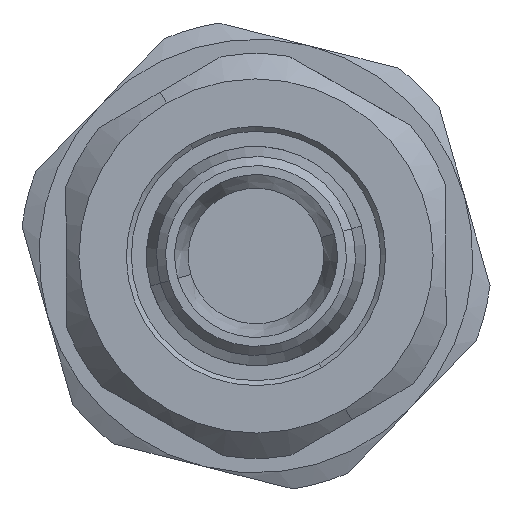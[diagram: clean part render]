
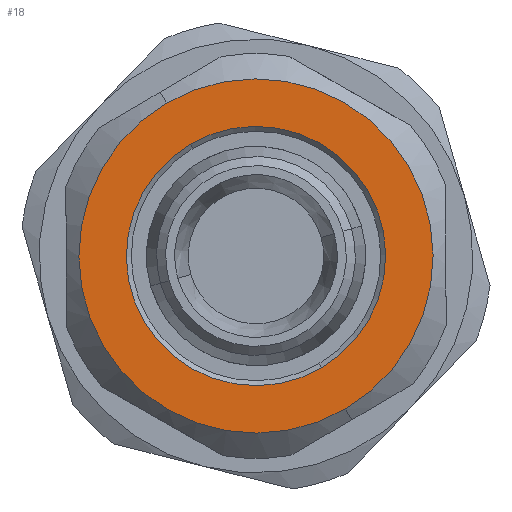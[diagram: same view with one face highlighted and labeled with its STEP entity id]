
A CAD part, left-side view. The second image highlights one B-rep face of the part: STEP entity #18.
In plain terms, the highlighted planar face has unit normal (-1, 0, 0).
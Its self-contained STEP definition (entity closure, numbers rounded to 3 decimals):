
#18 = ADVANCED_FACE ( 'NONE', ( #7130, #7175 ), #6055, .F. ) ;
#59 = EDGE_CURVE ( 'NONE', #7076, #7126, #7262, .T. ) ;
#92 = EDGE_CURVE ( 'NONE', #7184, #7085, #7312, .T. ) ;
#183 = EDGE_CURVE ( 'NONE', #7126, #7076, #7436, .T. ) ;
#204 = EDGE_CURVE ( 'NONE', #7085, #7184, #7444, .T. ) ;
#982 = AXIS2_PLACEMENT_3D ( 'NONE', #6044, #6070, #6027 ) ;
#1270 = AXIS2_PLACEMENT_3D ( 'NONE', #3485, #3477, #3465 ) ;
#1285 = AXIS2_PLACEMENT_3D ( 'NONE', #3603, #3586, #3616 ) ;
#1318 = AXIS2_PLACEMENT_3D ( 'NONE', #3869, #3839, #3848 ) ;
#1329 = AXIS2_PLACEMENT_3D ( 'NONE', #3935, #3943, #3948 ) ;
#3465 = DIRECTION ( 'NONE',  ( 0., 0., 1. ) ) ;
#3477 = DIRECTION ( 'NONE',  ( -1., 0., 0. ) ) ;
#3485 = CARTESIAN_POINT ( 'NONE',  ( 0., 0., 0. ) ) ;
#3586 = DIRECTION ( 'NONE',  ( -1., 0., 0. ) ) ;
#3603 = CARTESIAN_POINT ( 'NONE',  ( 0., 0., 0. ) ) ;
#3616 = DIRECTION ( 'NONE',  ( 0., 0., 1. ) ) ;
#3839 = DIRECTION ( 'NONE',  ( -1., 0., 0. ) ) ;
#3848 = DIRECTION ( 'NONE',  ( 0., 0., 1. ) ) ;
#3869 = CARTESIAN_POINT ( 'NONE',  ( 0., 0., 0. ) ) ;
#3935 = CARTESIAN_POINT ( 'NONE',  ( 0., 0., 0. ) ) ;
#3943 = DIRECTION ( 'NONE',  ( -1., 0., 0. ) ) ;
#3948 = DIRECTION ( 'NONE',  ( 0., 0., 1. ) ) ;
#5196 = CARTESIAN_POINT ( 'NONE',  ( 0., 0., 9.8 ) ) ;
#5219 = CARTESIAN_POINT ( 'NONE',  ( 0., 0., 7.174 ) ) ;
#5259 = CARTESIAN_POINT ( 'NONE',  ( 0., 0., -9.8 ) ) ;
#5267 = CARTESIAN_POINT ( 'NONE',  ( 0., 0., -7.174 ) ) ;
#5588 = ORIENTED_EDGE ( 'NONE', *, *, #183, .F. ) ;
#5724 = ORIENTED_EDGE ( 'NONE', *, *, #204, .T. ) ;
#5731 = ORIENTED_EDGE ( 'NONE', *, *, #92, .T. ) ;
#5976 = ORIENTED_EDGE ( 'NONE', *, *, #59, .F. ) ;
#6027 = DIRECTION ( 'NONE',  ( 0., 0., -1. ) ) ;
#6044 = CARTESIAN_POINT ( 'NONE',  ( 0., 0., 0. ) ) ;
#6055 = PLANE ( 'NONE',  #982 ) ;
#6070 = DIRECTION ( 'NONE',  ( 1., 0., 0. ) ) ;
#6755 = EDGE_LOOP ( 'NONE', ( #5976, #5588 ) ) ;
#6773 = EDGE_LOOP ( 'NONE', ( #5731, #5724 ) ) ;
#7076 = VERTEX_POINT ( 'NONE', #5219 ) ;
#7085 = VERTEX_POINT ( 'NONE', #5196 ) ;
#7126 = VERTEX_POINT ( 'NONE', #5267 ) ;
#7130 = FACE_BOUND ( 'NONE', #6755, .T. ) ;
#7175 = FACE_OUTER_BOUND ( 'NONE', #6773, .T. ) ;
#7184 = VERTEX_POINT ( 'NONE', #5259 ) ;
#7262 = CIRCLE ( 'NONE', #1270, 7.174 ) ;
#7312 = CIRCLE ( 'NONE', #1285, 9.8 ) ;
#7436 = CIRCLE ( 'NONE', #1318, 7.174 ) ;
#7444 = CIRCLE ( 'NONE', #1329, 9.8 ) ;
